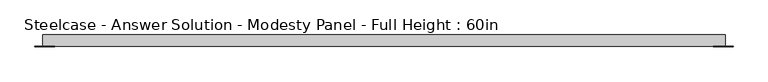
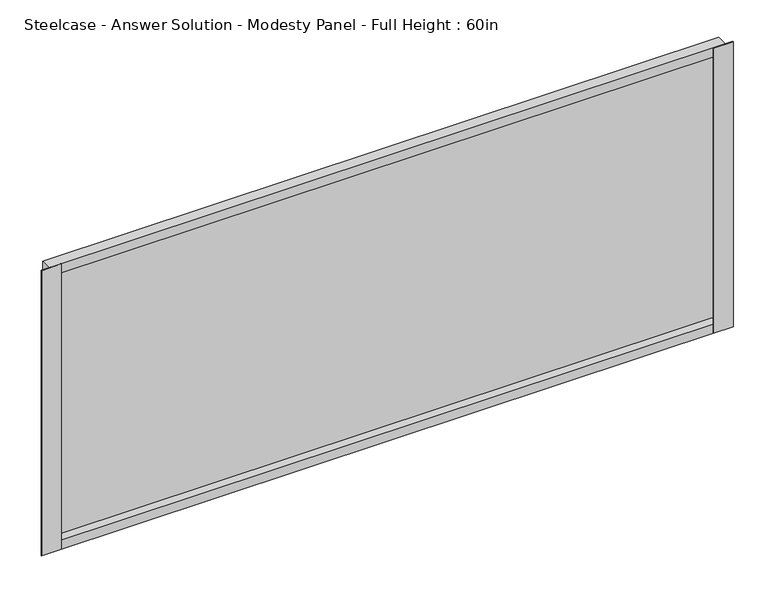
"""IFC4 building model written with IfcOpenShell, lengths in millimetres: furniture geometry, Steelcase - Answer Solution - Modesty Panel - Full Height : 60in."""

from ifc_helpers import new_model, si_unit, frame, origin, place, context, project, spatial, polyline, outline, extrude, faceted_brep, source, transform, mapped, element, save


def steelcase_answer_solution_modesty_panel_full_height_60in_a338767f(model_context):
    return source(origin(), model_context, "Body", "SolidModel", [
        extrude(outline(polyline([(2067.5400478, -14.2668826), (2067.5400478, -15.0593624), (2023.1248254, -15.0593624), (2023.1248254, -14.2668826), (2067.5400478, -14.2668826)])), frame((0.0, 0.0, 17.653), z_axis=(0.0, 0.0, 1.0), x_axis=(1.0, 0.0, 0.0)), (0.0, 0.0, 1.0), 678.18),
        extrude(outline(polyline([(556.9673392, -14.2668826), (556.9673392, -15.0593624), (512.5520826, -15.0593624), (512.5520826, -14.2668826), (556.9673392, -14.2668826)])), frame((0.0, 0.0, 17.653), z_axis=(0.0, 0.0, 1.0), x_axis=(1.0, 0.0, 0.0)), (0.0, 0.0, 1.0), 678.18),
        faceted_brep([(530.0780827, 10.9045177, 17.653), (530.0780827, -14.2668826, 17.653), (530.0780827, -14.2668826, 695.833), (530.0780827, 10.9045177, 695.833), (2050.0140827, -14.2668826, 17.653), (2050.0140827, 10.9045177, 17.653), (2050.0140827, 10.9045177, 695.833), (2050.0140827, -14.2668826, 695.833), (2049.2216165, 4.7831174, 39.243), (530.8705628, 4.7831174, 39.243), (530.8705628, -14.2668826, 39.243), (2049.2216165, -14.2668826, 39.243), (530.8705628, -14.2668826, 674.243), (2049.2216165, -14.2668826, 674.243), (530.8705628, 4.7831174, 674.243), (2049.2216165, 4.7831174, 674.243)], [[[0, 1, 2, 3]], [[4, 5, 6, 7]], [[8, 9, 10, 11]], [[0, 3, 6, 5]], [[4, 1, 0, 5]], [[2, 1, 4, 7], [10, 12, 13, 11]], [[3, 2, 7, 6]], [[14, 15, 13, 12]], [[9, 8, 15, 14]], [[12, 10, 9, 14]], [[11, 13, 15, 8]]]),
    ])


if __name__ == "__main__":
    model = new_model("IFC4")
    model_context = context("Model", 3, world=origin())
    ifc_project = project(units=[si_unit("LENGTHUNIT", "METRE", prefix="MILLI")], contexts=[model_context])
    site = spatial("IfcSite", under=ifc_project)
    building = spatial("IfcBuilding", under=site)
    placement = place(None, origin())
    steelcase_answer_solution_modesty_panel_full_height_60in_shape = steelcase_answer_solution_modesty_panel_full_height_60in_a338767f(model_context)
    element("IfcFurniture", 1, ObjectType="Steelcase - Answer Solution - Modesty Panel - Full Height : 60in", at=placement, inside=building, context=model_context, shape_type="MappedRepresentation", body=[
        mapped(steelcase_answer_solution_modesty_panel_full_height_60in_shape, transform((0.0, 0.0, 0.0), x_axis=(1.0, 0.0, 0.0), y_axis=(0.0, 1.0, 0.0), z_axis=(0.0, 0.0, 1.0))),
    ])
    save(model, "model.ifc")
